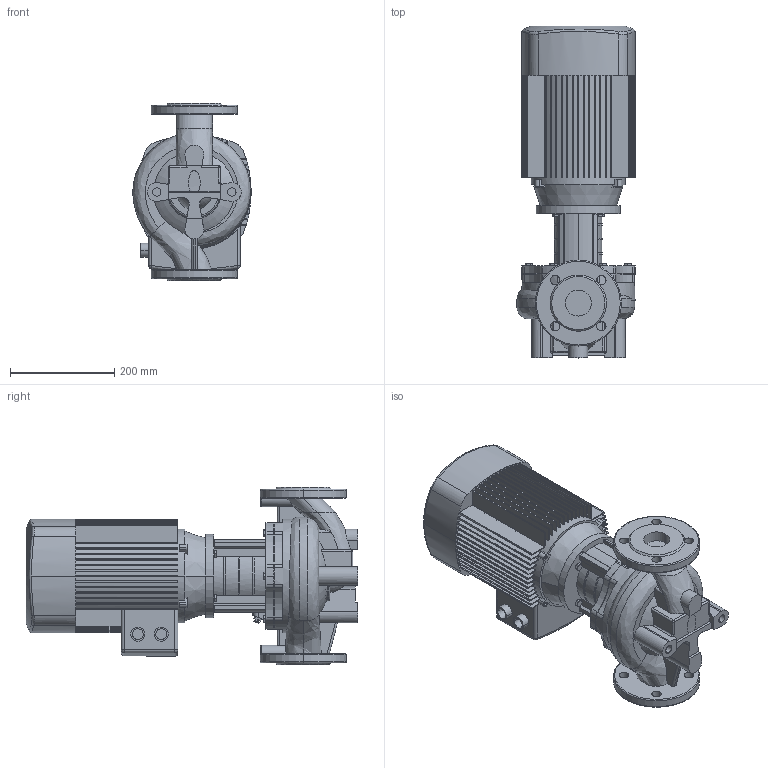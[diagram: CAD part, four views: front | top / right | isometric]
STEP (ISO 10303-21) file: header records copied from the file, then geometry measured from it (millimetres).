
FILE_DESCRIPTION (( 'STEP AP203' ), '1' );
FILE_NAME ('TD50-28G／2.STEP', '2026-09-07T02:00:52', ( '' ), ( '' ), 'SwSTEP 2.0', 'SolidWorks 2020', '' );
FILE_SCHEMA (( 'CONFIG_CONTROL_DESIGN' ));
Length unit declared in the file: millimetre
Products named in the file (1): TD50-28Gㄞ2
Bounding box: 226.93 x 637 x 340 mm (x, y, z)
Volume: 19077237.7 mm3; surface area: 1160649.4 mm2
Topology: 1 solids, 8 shells, 1056 faces, 2880 edges, 1867 vertices
Faces by surface type: plane 591, cylinder 251, cone 101, bspline 56, torus 51, sphere 6
Entity records: 44020 total; most frequent: CARTESIAN_POINT 17505, ORIENTED_EDGE 5752, DIRECTION 5343, EDGE_CURVE 2876, AXIS2_PLACEMENT_3D 1955, VERTEX_POINT 1867, VECTOR 1433, LINE 1433
